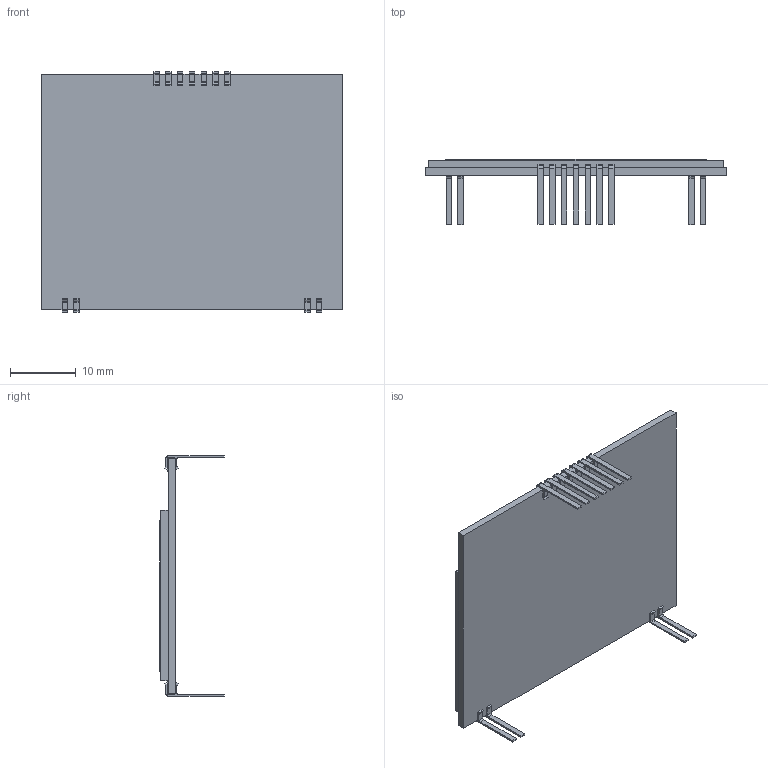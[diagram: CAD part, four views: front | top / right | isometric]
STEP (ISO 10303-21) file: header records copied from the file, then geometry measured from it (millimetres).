
FILE_DESCRIPTION (( 'STEP AP214' ), '1' );
FILE_NAME ('TIC120.STEP', '2013-04-01T11:41:17', ( 'Tester2' ), ( '' ), 'SwSTEP 2.0', 'SolidWorks 2012', '' );
FILE_SCHEMA (( 'AUTOMOTIVE_DESIGN' ));
Length unit declared in the file: millimetre
Products named in the file (1): TIC120
Bounding box: 45.86 x 9.9 x 36.7 mm (x, y, z)
Volume: 3311.4 mm3; surface area: 3918.1 mm2
Topology: 1 solids, 1 shells, 324 faces, 983 edges, 648 vertices
Faces by surface type: plane 232, cylinder 92
Entity records: 14511 total; most frequent: ORIENTED_EDGE 1966, CARTESIAN_POINT 1956, DIRECTION 1817, EDGE_CURVE 983, VECTOR 799, LINE 799, VERTEX_POINT 648, AXIS2_PLACEMENT_3D 509
